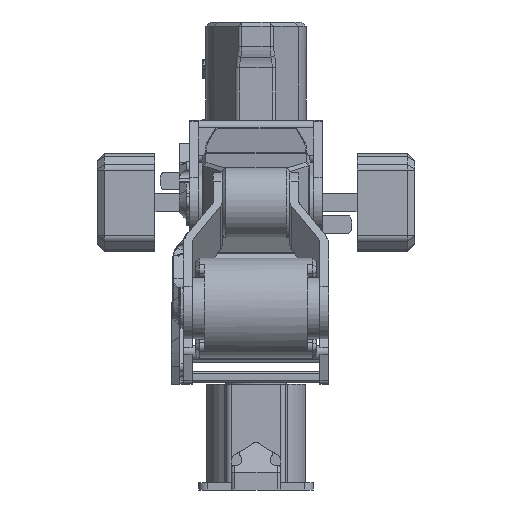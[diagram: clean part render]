
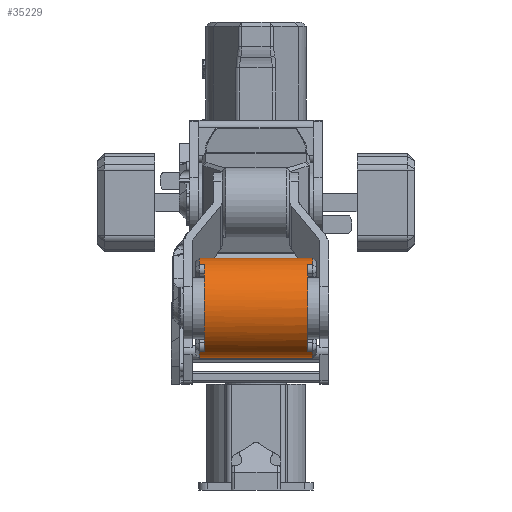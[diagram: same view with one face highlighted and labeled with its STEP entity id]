
A CAD part, left-side view. The second image highlights one B-rep face of the part: STEP entity #35229.
In plain terms, the highlighted cylindrical face has radius 28.5 mm (diameter 57 mm), a partial arc.
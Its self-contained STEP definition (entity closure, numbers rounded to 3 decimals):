
#2157=CIRCLE('',#37750,28.5);
#2158=CIRCLE('',#37751,28.5);
#2159=CIRCLE('',#37752,28.5);
#2160=CIRCLE('',#37753,28.5);
#2161=CIRCLE('',#37754,28.5);
#2162=CIRCLE('',#37755,28.5);
#4068=CYLINDRICAL_SURFACE('',#37749,28.5);
#4908=FACE_OUTER_BOUND('',#7127,.T.);
#7127=EDGE_LOOP('',(#24045,#24046,#24047,#24048,#24049,#24050,#24051,#24052,
#24053,#24054,#24055,#24056));
#9552=LINE('',#51942,#12067);
#9553=LINE('',#51946,#12068);
#9554=LINE('',#51950,#12069);
#9555=LINE('',#51954,#12070);
#9556=LINE('',#51958,#12071);
#9557=LINE('',#51961,#12072);
#12067=VECTOR('',#42009,1000.);
#12068=VECTOR('',#42012,1000.);
#12069=VECTOR('',#42015,1000.);
#12070=VECTOR('',#42018,1000.);
#12071=VECTOR('',#42021,1000.);
#12072=VECTOR('',#42024,1000.);
#14593=VERTEX_POINT('',#51938);
#14594=VERTEX_POINT('',#51939);
#14595=VERTEX_POINT('',#51941);
#14596=VERTEX_POINT('',#51943);
#14597=VERTEX_POINT('',#51945);
#14598=VERTEX_POINT('',#51947);
#14599=VERTEX_POINT('',#51949);
#14600=VERTEX_POINT('',#51951);
#14601=VERTEX_POINT('',#51953);
#14602=VERTEX_POINT('',#51955);
#14603=VERTEX_POINT('',#51957);
#14604=VERTEX_POINT('',#51959);
#18130=EDGE_CURVE('',#14593,#14594,#2157,.T.);
#18131=EDGE_CURVE('',#14594,#14595,#9552,.T.);
#18132=EDGE_CURVE('',#14595,#14596,#2158,.T.);
#18133=EDGE_CURVE('',#14597,#14596,#9553,.T.);
#18134=EDGE_CURVE('',#14597,#14598,#2159,.T.);
#18135=EDGE_CURVE('',#14598,#14599,#9554,.T.);
#18136=EDGE_CURVE('',#14599,#14600,#2160,.T.);
#18137=EDGE_CURVE('',#14601,#14600,#9555,.T.);
#18138=EDGE_CURVE('',#14601,#14602,#2161,.T.);
#18139=EDGE_CURVE('',#14603,#14602,#9556,.T.);
#18140=EDGE_CURVE('',#14604,#14603,#2162,.T.);
#18141=EDGE_CURVE('',#14604,#14593,#9557,.T.);
#24045=ORIENTED_EDGE('',*,*,#18130,.T.);
#24046=ORIENTED_EDGE('',*,*,#18131,.T.);
#24047=ORIENTED_EDGE('',*,*,#18132,.T.);
#24048=ORIENTED_EDGE('',*,*,#18133,.F.);
#24049=ORIENTED_EDGE('',*,*,#18134,.T.);
#24050=ORIENTED_EDGE('',*,*,#18135,.T.);
#24051=ORIENTED_EDGE('',*,*,#18136,.T.);
#24052=ORIENTED_EDGE('',*,*,#18137,.F.);
#24053=ORIENTED_EDGE('',*,*,#18138,.T.);
#24054=ORIENTED_EDGE('',*,*,#18139,.F.);
#24055=ORIENTED_EDGE('',*,*,#18140,.F.);
#24056=ORIENTED_EDGE('',*,*,#18141,.T.);
#35229=ADVANCED_FACE('',(#4908),#4068,.T.);
#37749=AXIS2_PLACEMENT_3D('',#51937,#42005,#42006);
#37750=AXIS2_PLACEMENT_3D('',#51940,#42007,#42008);
#37751=AXIS2_PLACEMENT_3D('',#51944,#42010,#42011);
#37752=AXIS2_PLACEMENT_3D('',#51948,#42013,#42014);
#37753=AXIS2_PLACEMENT_3D('',#51952,#42016,#42017);
#37754=AXIS2_PLACEMENT_3D('',#51956,#42019,#42020);
#37755=AXIS2_PLACEMENT_3D('',#51960,#42022,#42023);
#42005=DIRECTION('center_axis',(0.,1.,0.));
#42006=DIRECTION('ref_axis',(-1.,0.,0.));
#42007=DIRECTION('center_axis',(0.,1.,0.));
#42008=DIRECTION('ref_axis',(0.,0.,-1.));
#42009=DIRECTION('',(0.,1.,0.));
#42010=DIRECTION('center_axis',(0.,-1.,0.));
#42011=DIRECTION('ref_axis',(0.,0.,1.));
#42012=DIRECTION('',(0.,1.,0.));
#42013=DIRECTION('center_axis',(0.,-1.,0.));
#42014=DIRECTION('ref_axis',(0.,0.,1.));
#42015=DIRECTION('',(0.,1.,0.));
#42016=DIRECTION('center_axis',(0.,-1.,0.));
#42017=DIRECTION('ref_axis',(0.,0.,1.));
#42018=DIRECTION('',(0.,1.,0.));
#42019=DIRECTION('center_axis',(0.,1.,0.));
#42020=DIRECTION('ref_axis',(0.,0.,-1.));
#42021=DIRECTION('',(0.,-1.,0.));
#42022=DIRECTION('center_axis',(0.,-1.,0.));
#42023=DIRECTION('ref_axis',(0.,0.,1.));
#42024=DIRECTION('',(0.,-1.,0.));
#51937=CARTESIAN_POINT('Origin',(-264.,-50.,0.));
#51938=CARTESIAN_POINT('',(-278.25,-32.325,24.682));
#51939=CARTESIAN_POINT('',(-259.051,-32.325,28.067));
#51940=CARTESIAN_POINT('Origin',(-264.,-32.325,0.));
#51941=CARTESIAN_POINT('',(-259.051,32.325,28.067));
#51942=CARTESIAN_POINT('',(-259.051,-50.,28.067));
#51943=CARTESIAN_POINT('',(-278.25,32.325,24.682));
#51944=CARTESIAN_POINT('Origin',(-264.,32.325,0.));
#51945=CARTESIAN_POINT('',(-278.25,29.325,24.682));
#51946=CARTESIAN_POINT('',(-278.25,29.325,24.682));
#51947=CARTESIAN_POINT('',(-278.25,29.325,-24.682));
#51948=CARTESIAN_POINT('Origin',(-264.,29.325,0.));
#51949=CARTESIAN_POINT('',(-278.25,32.325,-24.682));
#51950=CARTESIAN_POINT('',(-278.25,29.325,-24.682));
#51951=CARTESIAN_POINT('',(-259.051,32.325,-28.067));
#51952=CARTESIAN_POINT('Origin',(-264.,32.325,0.));
#51953=CARTESIAN_POINT('',(-259.051,-32.325,-28.067));
#51954=CARTESIAN_POINT('',(-259.051,-50.,-28.067));
#51955=CARTESIAN_POINT('',(-278.25,-32.325,-24.682));
#51956=CARTESIAN_POINT('Origin',(-264.,-32.325,0.));
#51957=CARTESIAN_POINT('',(-278.25,-29.325,-24.682));
#51958=CARTESIAN_POINT('',(-278.25,-29.325,-24.682));
#51959=CARTESIAN_POINT('',(-278.25,-29.325,24.682));
#51960=CARTESIAN_POINT('Origin',(-264.,-29.325,0.));
#51961=CARTESIAN_POINT('',(-278.25,-29.325,24.682));
